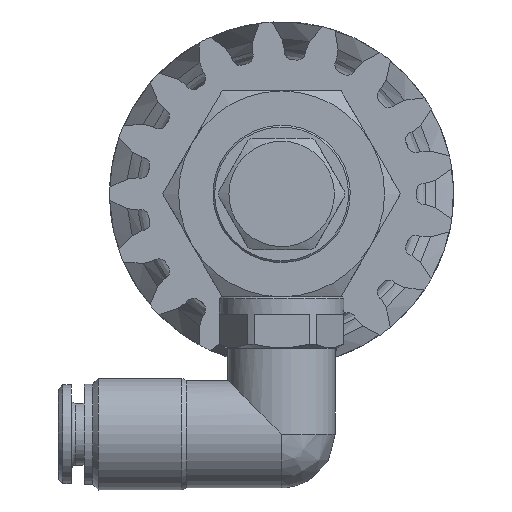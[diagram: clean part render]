
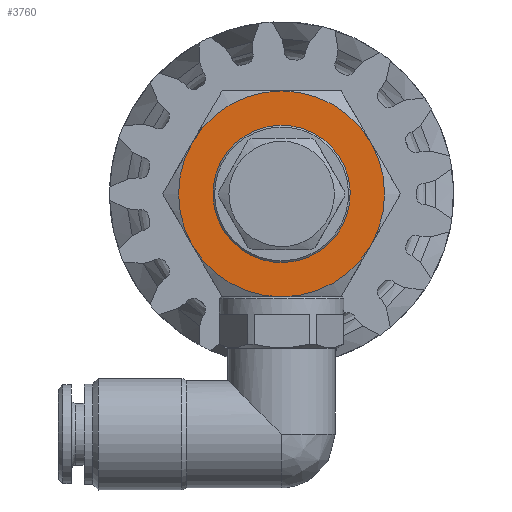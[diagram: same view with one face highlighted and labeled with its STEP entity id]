
A CAD part, front view. The second image highlights one B-rep face of the part: STEP entity #3760.
In plain terms, the highlighted planar face has unit normal (0, -1, 0).
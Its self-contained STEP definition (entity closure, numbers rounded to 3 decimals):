
#3688 = ORIENTED_EDGE ( 'NONE', *, *, #31835, .F. ) ;
#3760 = ADVANCED_FACE ( 'NONE', ( #40241, #7728 ), #36897, .F. ) ;
#5114 = AXIS2_PLACEMENT_3D ( 'NONE', #58681, #51317, #41882 ) ;
#5233 = DIRECTION ( 'NONE',  ( 0., 0., 1. ) ) ;
#7728 = FACE_BOUND ( 'NONE', #41755, .T. ) ;
#9427 = DIRECTION ( 'NONE',  ( 0., 1., 0. ) ) ;
#9691 = CARTESIAN_POINT ( 'NONE',  ( 0., 0., 3.75 ) ) ;
#9739 = VERTEX_POINT ( 'NONE', #15976 ) ;
#9894 = CIRCLE ( 'NONE', #60981, 12. ) ;
#10566 = CARTESIAN_POINT ( 'NONE',  ( 0., 0., 0. ) ) ;
#10937 = ORIENTED_EDGE ( 'NONE', *, *, #60643, .F. ) ;
#11070 = VERTEX_POINT ( 'NONE', #64645 ) ;
#11413 = DIRECTION ( 'NONE',  ( 0., 0., 1. ) ) ;
#12136 = DIRECTION ( 'NONE',  ( 0., 0., 1. ) ) ;
#14343 = VERTEX_POINT ( 'NONE', #9691 ) ;
#15911 = AXIS2_PLACEMENT_3D ( 'NONE', #32883, #21798, #11413 ) ;
#15976 = CARTESIAN_POINT ( 'NONE',  ( 0., 0., -12. ) ) ;
#19840 = CARTESIAN_POINT ( 'NONE',  ( 0., 0., 0. ) ) ;
#20303 = ORIENTED_EDGE ( 'NONE', *, *, #54360, .F. ) ;
#21798 = DIRECTION ( 'NONE',  ( 0., 1., 0. ) ) ;
#22670 = AXIS2_PLACEMENT_3D ( 'NONE', #45857, #52267, #51923 ) ;
#24994 = CARTESIAN_POINT ( 'NONE',  ( 0., 0., 0. ) ) ;
#25051 = CARTESIAN_POINT ( 'NONE',  ( 10.392, 0., 6. ) ) ;
#25352 = DIRECTION ( 'NONE',  ( 0., 0., 1. ) ) ;
#25863 = DIRECTION ( 'NONE',  ( 0., 0., 1. ) ) ;
#28388 = CIRCLE ( 'NONE', #22670, 12. ) ;
#31835 = EDGE_CURVE ( 'NONE', #56960, #68055, #28388, .T. ) ;
#32383 = DIRECTION ( 'NONE',  ( 0., 1., 0. ) ) ;
#32883 = CARTESIAN_POINT ( 'NONE',  ( 0., 0., 0. ) ) ;
#33352 = AXIS2_PLACEMENT_3D ( 'NONE', #10566, #32383, #5233 ) ;
#36897 = PLANE ( 'NONE',  #5114 ) ;
#38677 = AXIS2_PLACEMENT_3D ( 'NONE', #57160, #62151, #12136 ) ;
#39011 = EDGE_CURVE ( 'NONE', #14343, #14343, #51608, .T. ) ;
#40241 = FACE_OUTER_BOUND ( 'NONE', #53528, .T. ) ;
#40447 = VERTEX_POINT ( 'NONE', #25051 ) ;
#41755 = EDGE_LOOP ( 'NONE', ( #57147 ) ) ;
#41882 = DIRECTION ( 'NONE',  ( 0., 0., 1. ) ) ;
#44961 = ORIENTED_EDGE ( 'NONE', *, *, #61643, .F. ) ;
#45857 = CARTESIAN_POINT ( 'NONE',  ( 0., 0., 0. ) ) ;
#46666 = DIRECTION ( 'NONE',  ( 0., 1., 0. ) ) ;
#51317 = DIRECTION ( 'NONE',  ( 0., 1., 0. ) ) ;
#51347 = ORIENTED_EDGE ( 'NONE', *, *, #65016, .F. ) ;
#51608 = CIRCLE ( 'NONE', #33352, 3.75 ) ;
#51923 = DIRECTION ( 'NONE',  ( 0., 0., 1. ) ) ;
#52267 = DIRECTION ( 'NONE',  ( 0., 1., 0. ) ) ;
#52729 = DIRECTION ( 'NONE',  ( 0., 0., 1. ) ) ;
#53528 = EDGE_LOOP ( 'NONE', ( #51347, #10937, #3688, #20303, #68744, #44961 ) ) ;
#53803 = VERTEX_POINT ( 'NONE', #55428 ) ;
#54169 = CARTESIAN_POINT ( 'NONE',  ( -10.392, 0., -6. ) ) ;
#54360 = EDGE_CURVE ( 'NONE', #9739, #56960, #9894, .T. ) ;
#55428 = CARTESIAN_POINT ( 'NONE',  ( 0., 0., 12. ) ) ;
#56960 = VERTEX_POINT ( 'NONE', #54169 ) ;
#57147 = ORIENTED_EDGE ( 'NONE', *, *, #39011, .T. ) ;
#57160 = CARTESIAN_POINT ( 'NONE',  ( 0., 0., 0. ) ) ;
#57574 = CARTESIAN_POINT ( 'NONE',  ( -10.392, 0., 6. ) ) ;
#58204 = AXIS2_PLACEMENT_3D ( 'NONE', #24994, #62870, #25352 ) ;
#58387 = CARTESIAN_POINT ( 'NONE',  ( 0., 0., 0. ) ) ;
#58681 = CARTESIAN_POINT ( 'NONE',  ( 12., 0., 0. ) ) ;
#59324 = AXIS2_PLACEMENT_3D ( 'NONE', #58387, #9427, #25863 ) ;
#60392 = CIRCLE ( 'NONE', #15911, 12. ) ;
#60643 = EDGE_CURVE ( 'NONE', #68055, #53803, #69469, .T. ) ;
#60981 = AXIS2_PLACEMENT_3D ( 'NONE', #19840, #46666, #52729 ) ;
#61643 = EDGE_CURVE ( 'NONE', #40447, #11070, #60392, .T. ) ;
#62151 = DIRECTION ( 'NONE',  ( 0., 1., 0. ) ) ;
#62732 = CIRCLE ( 'NONE', #59324, 12. ) ;
#62870 = DIRECTION ( 'NONE',  ( 0., 1., 0. ) ) ;
#63916 = CIRCLE ( 'NONE', #58204, 12. ) ;
#64179 = EDGE_CURVE ( 'NONE', #11070, #9739, #62732, .T. ) ;
#64645 = CARTESIAN_POINT ( 'NONE',  ( 10.392, 0., -6. ) ) ;
#65016 = EDGE_CURVE ( 'NONE', #53803, #40447, #63916, .T. ) ;
#68055 = VERTEX_POINT ( 'NONE', #57574 ) ;
#68744 = ORIENTED_EDGE ( 'NONE', *, *, #64179, .F. ) ;
#69469 = CIRCLE ( 'NONE', #38677, 12. ) ;
